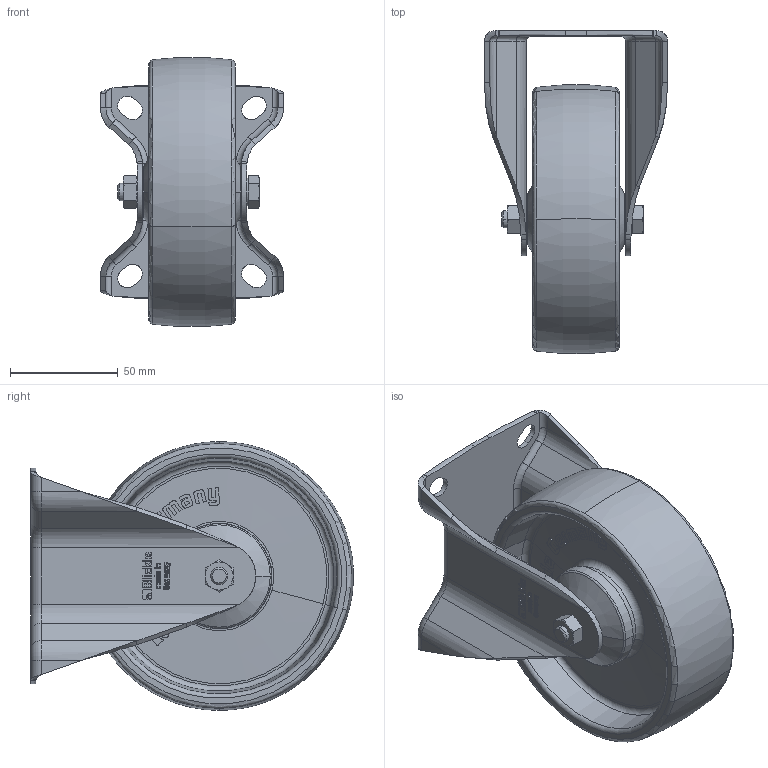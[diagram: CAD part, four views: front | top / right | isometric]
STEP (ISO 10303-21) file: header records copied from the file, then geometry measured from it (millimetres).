
FILE_DESCRIPTION (( 'STEP AP214' ), '1' );
FILE_NAME ('BX-PO_125KD_583344-214.step', '2021-12-13T10:31:35', ( '' ), ( '' ), 'SwSTEP 2.0', 'SolidWorks 2018', '' );
FILE_SCHEMA (( 'AUTOMOTIVE_DESIGN' ));
Length unit declared in the file: millimetre
Products named in the file (5): GH-BX_80-125_GH-BX-125x45-01_8x46; PO_125_8K_G16_3D; PO_50-125_3D_G16_PO_125_8KD_603050; GH-BX-125x45-01_8x46_G16_3D; BX-PO_125KD_583344-214
Assembly tree (4 placements, depth 3):
  BX-PO_125KD_583344-214
    GH-BX_80-125_GH-BX-125x45-01_8x46
      GH-BX-125x45-01_8x46_G16_3D
    PO_50-125_3D_G16_PO_125_8KD_603050
      PO_125_8K_G16_3D
Bounding box: 85 x 149.82 x 124.75 mm (x, y, z)
Volume: 264085.7 mm3; surface area: 115818.2 mm2
Topology: 2 solids, 8 shells, 1801 faces, 4754 edges, 3099 vertices
Faces by surface type: plane 822, bspline 640, cone 135, cylinder 112, torus 92
Entity records: 65515 total; most frequent: CARTESIAN_POINT 25417, ORIENTED_EDGE 9508, DIRECTION 5791, EDGE_CURVE 4754, VERTEX_POINT 3099, VECTOR 2389, LINE 2389, EDGE_LOOP 1955
